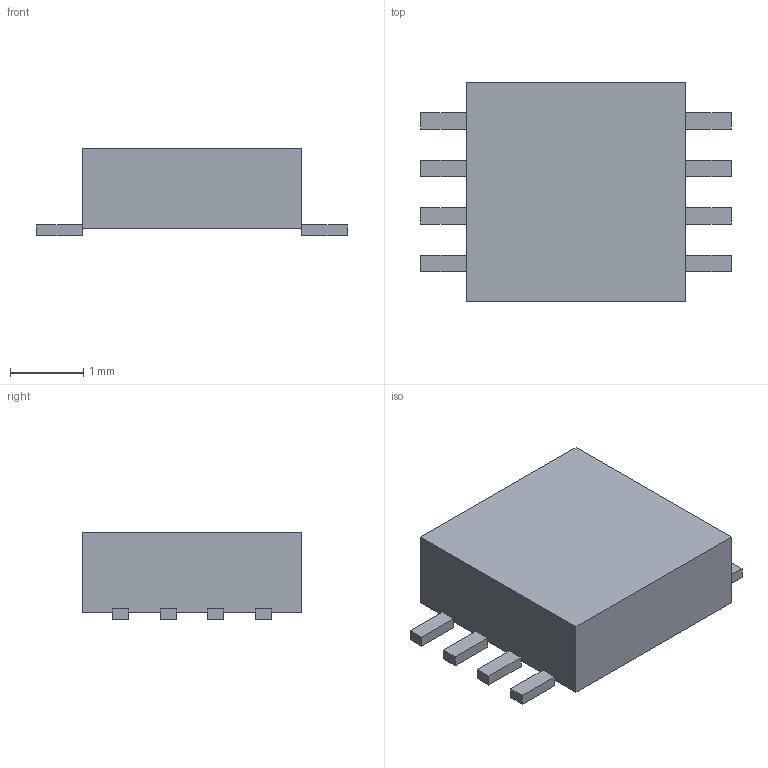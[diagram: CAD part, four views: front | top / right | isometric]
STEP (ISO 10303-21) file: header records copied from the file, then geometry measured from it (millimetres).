
FILE_DESCRIPTION(('Open CASCADE Model'),'2;1');
FILE_NAME('Open CASCADE Shape Model','2026-10-10T00:13:39',('Author'),( 'Open CASCADE'),'Open CASCADE STEP processor 7.9','Open CASCADE 7.9' ,'Unknown');
FILE_SCHEMA(('AUTOMOTIVE_DESIGN { 1 0 10303 214 1 1 1 1 }'));
Length unit declared in the file: millimetre
Products named in the file (10): Open CASCADE STEP translator 7.9 1; Open CASCADE STEP translator 7.9 1.1; Open CASCADE STEP translator 7.9 1.2; Open CASCADE STEP translator 7.9 1.3; Open CASCADE STEP translator 7.9 1.4; Open CASCADE STEP translator 7.9 1.5; Open CASCADE STEP translator 7.9 1.6; Open CASCADE STEP translator 7.9 1.7; Open CASCADE STEP translator 7.9 1.8; Open CASCADE STEP translator 7.9 1.9
Assembly tree (9 placements, depth 2):
  Open CASCADE STEP translator 7.9 1
    Open CASCADE STEP translator 7.9 1.1
    Open CASCADE STEP translator 7.9 1.2
    Open CASCADE STEP translator 7.9 1.3
    Open CASCADE STEP translator 7.9 1.4
    Open CASCADE STEP translator 7.9 1.5
    Open CASCADE STEP translator 7.9 1.6
    Open CASCADE STEP translator 7.9 1.7
    Open CASCADE STEP translator 7.9 1.8
    Open CASCADE STEP translator 7.9 1.9
Bounding box: 4.25 x 3 x 1.2 mm (x, y, z)
Volume: 10.1 mm3; surface area: 35.5 mm2
Topology: 9 solids, 9 shells, 54 faces, 108 edges, 72 vertices
Faces by surface type: plane 54
Entity records: 2932 total; most frequent: CARTESIAN_POINT 460, DIRECTION 452, LINE 324, VECTOR 324, ORIENTED_EDGE 216, PCURVE 216, DEFINITIONAL_REPRESENTATION 216, EDGE_CURVE 108
